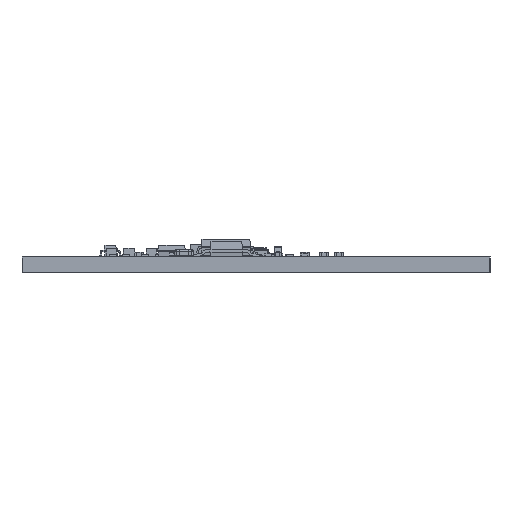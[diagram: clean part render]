
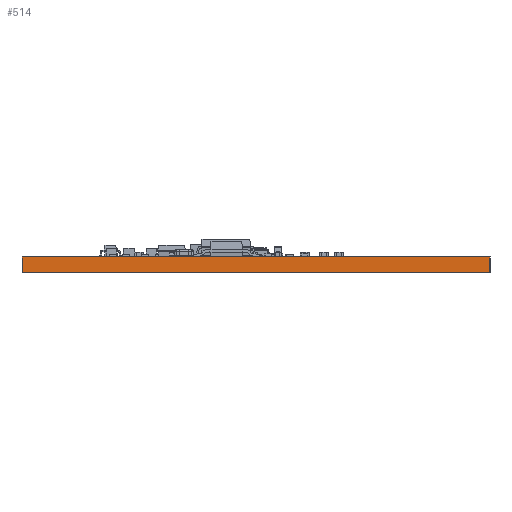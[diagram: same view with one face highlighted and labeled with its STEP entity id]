
A CAD part, left-side view. The second image highlights one B-rep face of the part: STEP entity #514.
In plain terms, the highlighted planar face has unit normal (-1, 0, 0).
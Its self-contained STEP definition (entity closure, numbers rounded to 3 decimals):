
#416 = EDGE_CURVE('',#417,#419,#421,.T.);
#417 = VERTEX_POINT('',#418);
#418 = CARTESIAN_POINT('',(-118.612,-0.178,0.));
#419 = VERTEX_POINT('',#420);
#420 = CARTESIAN_POINT('',(-118.612,-0.178,1.687));
#421 = LINE('',#422,#423);
#422 = CARTESIAN_POINT('',(-118.612,-0.178,0.));
#423 = VECTOR('',#424,1.);
#424 = DIRECTION('',(0.,0.,1.));
#489 = VERTEX_POINT('',#490);
#490 = CARTESIAN_POINT('',(-118.612,49.822,1.687));
#496 = EDGE_CURVE('',#497,#489,#499,.T.);
#497 = VERTEX_POINT('',#498);
#498 = CARTESIAN_POINT('',(-118.612,49.822,0.));
#499 = LINE('',#500,#501);
#500 = CARTESIAN_POINT('',(-118.612,49.822,0.));
#501 = VECTOR('',#502,1.);
#502 = DIRECTION('',(0.,0.,1.));
#514 = ADVANCED_FACE('',(#515),#531,.F.);
#515 = FACE_BOUND('',#516,.F.);
#516 = EDGE_LOOP('',(#517,#518,#524,#525));
#517 = ORIENTED_EDGE('',*,*,#496,.T.);
#518 = ORIENTED_EDGE('',*,*,#519,.T.);
#519 = EDGE_CURVE('',#489,#419,#520,.T.);
#520 = LINE('',#521,#522);
#521 = CARTESIAN_POINT('',(-118.612,49.822,1.687));
#522 = VECTOR('',#523,1.);
#523 = DIRECTION('',(0.,-1.,0.));
#524 = ORIENTED_EDGE('',*,*,#416,.F.);
#525 = ORIENTED_EDGE('',*,*,#526,.F.);
#526 = EDGE_CURVE('',#497,#417,#527,.T.);
#527 = LINE('',#528,#529);
#528 = CARTESIAN_POINT('',(-118.612,49.822,0.));
#529 = VECTOR('',#530,1.);
#530 = DIRECTION('',(0.,-1.,0.));
#531 = PLANE('',#532);
#532 = AXIS2_PLACEMENT_3D('',#533,#534,#535);
#533 = CARTESIAN_POINT('',(-118.612,49.822,0.));
#534 = DIRECTION('',(1.,0.,0.));
#535 = DIRECTION('',(0.,-1.,0.));
